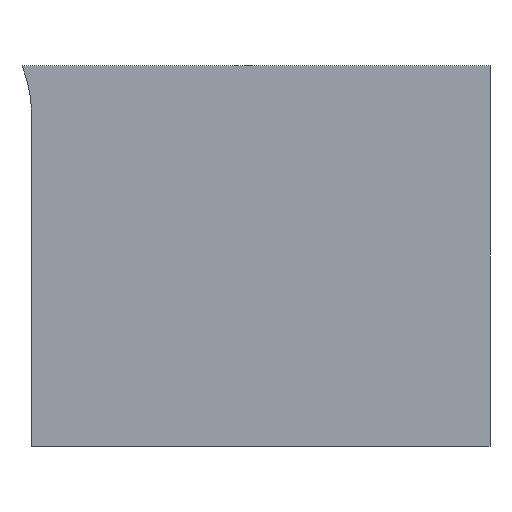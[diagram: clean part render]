
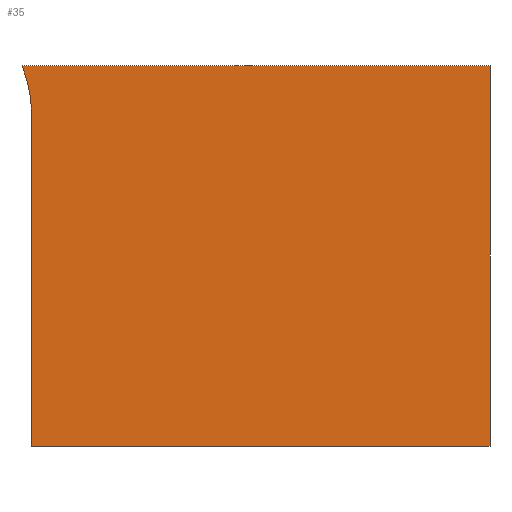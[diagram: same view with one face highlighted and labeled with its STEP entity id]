
A CAD part, left-side view. The second image highlights one B-rep face of the part: STEP entity #35.
In plain terms, the highlighted planar face has unit normal (-1, 0, 0).
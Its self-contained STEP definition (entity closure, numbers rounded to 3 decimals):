
#35 = ADVANCED_FACE('',(#36),#50,.F.);
#36 = FACE_BOUND('',#37,.F.);
#37 = EDGE_LOOP('',(#38,#73,#101,#129,#162));
#38 = ORIENTED_EDGE('',*,*,#39,.F.);
#39 = EDGE_CURVE('',#40,#42,#44,.T.);
#40 = VERTEX_POINT('',#41);
#41 = CARTESIAN_POINT('',(-44.13,-5.2,-44.));
#42 = VERTEX_POINT('',#43);
#43 = CARTESIAN_POINT('',(-44.13,-5.2,-38.));
#44 = SURFACE_CURVE('',#45,(#49,#61),.PCURVE_S1.);
#45 = LINE('',#46,#47);
#46 = CARTESIAN_POINT('',(-44.13,-5.2,-44.));
#47 = VECTOR('',#48,1.);
#48 = DIRECTION('',(0.,0.,1.));
#49 = PCURVE('',#50,#55);
#50 = PLANE('',#51);
#51 = AXIS2_PLACEMENT_3D('',#52,#53,#54);
#52 = CARTESIAN_POINT('',(-44.13,-5.2,-44.));
#53 = DIRECTION('',(1.,0.,0.));
#54 = DIRECTION('',(0.,0.,1.));
#55 = DEFINITIONAL_REPRESENTATION('',(#56),#60);
#56 = LINE('',#57,#58);
#57 = CARTESIAN_POINT('',(0.,0.));
#58 = VECTOR('',#59,1.);
#59 = DIRECTION('',(1.,0.));
#60 = ( GEOMETRIC_REPRESENTATION_CONTEXT(2) 
PARAMETRIC_REPRESENTATION_CONTEXT() REPRESENTATION_CONTEXT('2D SPACE',''
  ) );
#61 = PCURVE('',#62,#67);
#62 = PLANE('',#63);
#63 = AXIS2_PLACEMENT_3D('',#64,#65,#66);
#64 = CARTESIAN_POINT('',(-44.13,-5.2,-44.));
#65 = DIRECTION('',(0.,1.,0.));
#66 = DIRECTION('',(0.,-0.,1.));
#67 = DEFINITIONAL_REPRESENTATION('',(#68),#72);
#68 = LINE('',#69,#70);
#69 = CARTESIAN_POINT('',(0.,0.));
#70 = VECTOR('',#71,1.);
#71 = DIRECTION('',(1.,0.));
#72 = ( GEOMETRIC_REPRESENTATION_CONTEXT(2) 
PARAMETRIC_REPRESENTATION_CONTEXT() REPRESENTATION_CONTEXT('2D SPACE',''
  ) );
#73 = ORIENTED_EDGE('',*,*,#74,.T.);
#74 = EDGE_CURVE('',#40,#75,#77,.T.);
#75 = VERTEX_POINT('',#76);
#76 = CARTESIAN_POINT('',(-44.13,2.026,-44.));
#77 = SURFACE_CURVE('',#78,(#82,#89),.PCURVE_S1.);
#78 = LINE('',#79,#80);
#79 = CARTESIAN_POINT('',(-44.13,-5.2,-44.));
#80 = VECTOR('',#81,1.);
#81 = DIRECTION('',(0.,1.,0.));
#82 = PCURVE('',#50,#83);
#83 = DEFINITIONAL_REPRESENTATION('',(#84),#88);
#84 = LINE('',#85,#86);
#85 = CARTESIAN_POINT('',(0.,0.));
#86 = VECTOR('',#87,1.);
#87 = DIRECTION('',(0.,-1.));
#88 = ( GEOMETRIC_REPRESENTATION_CONTEXT(2) 
PARAMETRIC_REPRESENTATION_CONTEXT() REPRESENTATION_CONTEXT('2D SPACE',''
  ) );
#89 = PCURVE('',#90,#95);
#90 = PLANE('',#91);
#91 = AXIS2_PLACEMENT_3D('',#92,#93,#94);
#92 = CARTESIAN_POINT('',(-44.13,-5.2,-44.));
#93 = DIRECTION('',(0.,0.,1.));
#94 = DIRECTION('',(1.,0.,-0.));
#95 = DEFINITIONAL_REPRESENTATION('',(#96),#100);
#96 = LINE('',#97,#98);
#97 = CARTESIAN_POINT('',(0.,0.));
#98 = VECTOR('',#99,1.);
#99 = DIRECTION('',(0.,1.));
#100 = ( GEOMETRIC_REPRESENTATION_CONTEXT(2) 
PARAMETRIC_REPRESENTATION_CONTEXT() REPRESENTATION_CONTEXT('2D SPACE',''
  ) );
#101 = ORIENTED_EDGE('',*,*,#102,.F.);
#102 = EDGE_CURVE('',#103,#75,#105,.T.);
#103 = VERTEX_POINT('',#104);
#104 = CARTESIAN_POINT('',(-44.13,2.026,-38.764));
#105 = SURFACE_CURVE('',#106,(#110,#117),.PCURVE_S1.);
#106 = LINE('',#107,#108);
#107 = CARTESIAN_POINT('',(-44.13,2.026,-46.132));
#108 = VECTOR('',#109,1.);
#109 = DIRECTION('',(0.,0.,-1.));
#110 = PCURVE('',#50,#111);
#111 = DEFINITIONAL_REPRESENTATION('',(#112),#116);
#112 = LINE('',#113,#114);
#113 = CARTESIAN_POINT('',(-2.132,-7.226));
#114 = VECTOR('',#115,1.);
#115 = DIRECTION('',(-1.,0.));
#116 = ( GEOMETRIC_REPRESENTATION_CONTEXT(2) 
PARAMETRIC_REPRESENTATION_CONTEXT() REPRESENTATION_CONTEXT('2D SPACE',''
  ) );
#117 = PCURVE('',#118,#123);
#118 = PLANE('',#119);
#119 = AXIS2_PLACEMENT_3D('',#120,#121,#122);
#120 = CARTESIAN_POINT('',(-47.,2.026,-48.264));
#121 = DIRECTION('',(0.,-1.,0.));
#122 = DIRECTION('',(0.,0.,1.));
#123 = DEFINITIONAL_REPRESENTATION('',(#124),#128);
#124 = LINE('',#125,#126);
#125 = CARTESIAN_POINT('',(2.132,-2.87));
#126 = VECTOR('',#127,1.);
#127 = DIRECTION('',(-1.,0.));
#128 = ( GEOMETRIC_REPRESENTATION_CONTEXT(2) 
PARAMETRIC_REPRESENTATION_CONTEXT() REPRESENTATION_CONTEXT('2D SPACE',''
  ) );
#129 = ORIENTED_EDGE('',*,*,#130,.T.);
#130 = EDGE_CURVE('',#103,#131,#133,.T.);
#131 = VERTEX_POINT('',#132);
#132 = CARTESIAN_POINT('',(-44.13,2.177,-38.));
#133 = SURFACE_CURVE('',#134,(#139,#150),.PCURVE_S1.);
#134 = CIRCLE('',#135,2.);
#135 = AXIS2_PLACEMENT_3D('',#136,#137,#138);
#136 = CARTESIAN_POINT('',(-44.13,4.026,-38.764));
#137 = DIRECTION('',(-1.,0.,0.));
#138 = DIRECTION('',(0.,-1.,0.));
#139 = PCURVE('',#50,#140);
#140 = DEFINITIONAL_REPRESENTATION('',(#141),#149);
#141 = ( BOUNDED_CURVE() B_SPLINE_CURVE(2,(#142,#143,#144,#145,#146,#147
,#148),.UNSPECIFIED.,.T.,.F.) B_SPLINE_CURVE_WITH_KNOTS((1,2,2,2,2,1),(
    -2.094,0.,2.094,4.189,6.283,
8.378),.UNSPECIFIED.) CURVE() GEOMETRIC_REPRESENTATION_ITEM() 
RATIONAL_B_SPLINE_CURVE((1.,0.5,1.,0.5,1.,0.5,1.)) REPRESENTATION_ITEM(
  '') );
#142 = CARTESIAN_POINT('',(5.236,-7.226));
#143 = CARTESIAN_POINT('',(8.7,-7.226));
#144 = CARTESIAN_POINT('',(6.968,-10.226));
#145 = CARTESIAN_POINT('',(5.236,-13.226));
#146 = CARTESIAN_POINT('',(3.503,-10.226));
#147 = CARTESIAN_POINT('',(1.771,-7.226));
#148 = CARTESIAN_POINT('',(5.236,-7.226));
#149 = ( GEOMETRIC_REPRESENTATION_CONTEXT(2) 
PARAMETRIC_REPRESENTATION_CONTEXT() REPRESENTATION_CONTEXT('2D SPACE',''
  ) );
#150 = PCURVE('',#151,#156);
#151 = CYLINDRICAL_SURFACE('',#152,2.);
#152 = AXIS2_PLACEMENT_3D('',#153,#154,#155);
#153 = CARTESIAN_POINT('',(-47.,4.026,-38.764));
#154 = DIRECTION('',(-1.,0.,0.));
#155 = DIRECTION('',(0.,-1.,0.));
#156 = DEFINITIONAL_REPRESENTATION('',(#157),#161);
#157 = LINE('',#158,#159);
#158 = CARTESIAN_POINT('',(0.,-2.87));
#159 = VECTOR('',#160,1.);
#160 = DIRECTION('',(1.,0.));
#161 = ( GEOMETRIC_REPRESENTATION_CONTEXT(2) 
PARAMETRIC_REPRESENTATION_CONTEXT() REPRESENTATION_CONTEXT('2D SPACE',''
  ) );
#162 = ORIENTED_EDGE('',*,*,#163,.F.);
#163 = EDGE_CURVE('',#42,#131,#164,.T.);
#164 = SURFACE_CURVE('',#165,(#169,#176),.PCURVE_S1.);
#165 = LINE('',#166,#167);
#166 = CARTESIAN_POINT('',(-44.13,-5.2,-38.));
#167 = VECTOR('',#168,1.);
#168 = DIRECTION('',(0.,1.,0.));
#169 = PCURVE('',#50,#170);
#170 = DEFINITIONAL_REPRESENTATION('',(#171),#175);
#171 = LINE('',#172,#173);
#172 = CARTESIAN_POINT('',(6.,0.));
#173 = VECTOR('',#174,1.);
#174 = DIRECTION('',(0.,-1.));
#175 = ( GEOMETRIC_REPRESENTATION_CONTEXT(2) 
PARAMETRIC_REPRESENTATION_CONTEXT() REPRESENTATION_CONTEXT('2D SPACE',''
  ) );
#176 = PCURVE('',#177,#182);
#177 = PLANE('',#178);
#178 = AXIS2_PLACEMENT_3D('',#179,#180,#181);
#179 = CARTESIAN_POINT('',(-44.13,-5.2,-38.));
#180 = DIRECTION('',(0.,0.,1.));
#181 = DIRECTION('',(1.,0.,-0.));
#182 = DEFINITIONAL_REPRESENTATION('',(#183),#187);
#183 = LINE('',#184,#185);
#184 = CARTESIAN_POINT('',(0.,0.));
#185 = VECTOR('',#186,1.);
#186 = DIRECTION('',(0.,1.));
#187 = ( GEOMETRIC_REPRESENTATION_CONTEXT(2) 
PARAMETRIC_REPRESENTATION_CONTEXT() REPRESENTATION_CONTEXT('2D SPACE',''
  ) );
